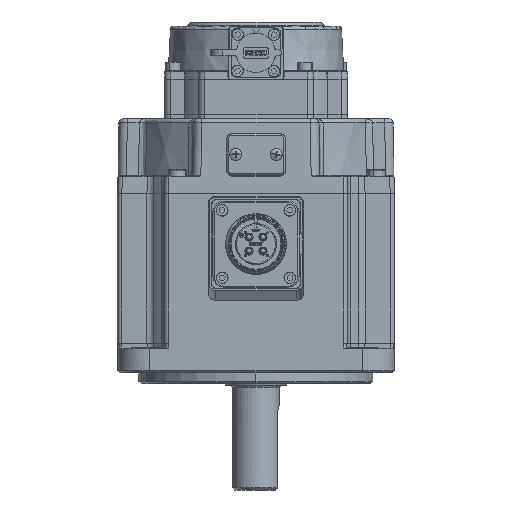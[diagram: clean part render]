
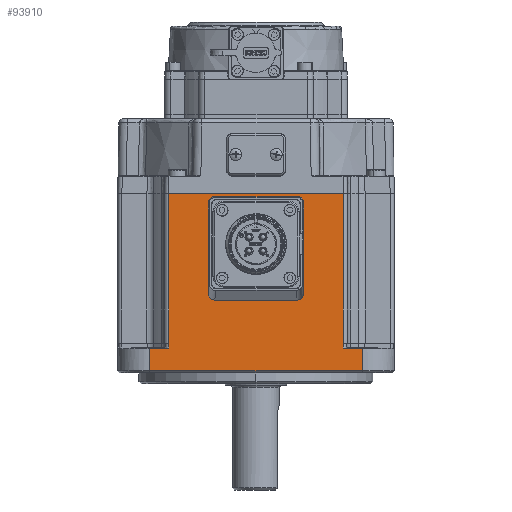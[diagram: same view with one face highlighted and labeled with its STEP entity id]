
A CAD part, left-side view. The second image highlights one B-rep face of the part: STEP entity #93910.
In plain terms, the highlighted planar face has unit normal (-1, 0, 0).
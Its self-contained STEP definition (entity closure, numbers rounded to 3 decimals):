
#820 = VECTOR ( 'NONE', #73513, 1000. ) ;
#1027 = VECTOR ( 'NONE', #92564, 1000. ) ;
#3231 = DIRECTION ( 'NONE',  ( 0., -1., 0.017 ) ) ;
#4784 = VERTEX_POINT ( 'NONE', #71075 ) ;
#5714 = FACE_OUTER_BOUND ( 'NONE', #61725, .T. ) ;
#10622 = ORIENTED_EDGE ( 'NONE', *, *, #57400, .F. ) ;
#12722 = CARTESIAN_POINT ( 'NONE',  ( -65., -43., 33.75 ) ) ;
#13947 = EDGE_CURVE ( 'NONE', #14839, #81600, #21922, .T. ) ;
#14839 = VERTEX_POINT ( 'NONE', #72250 ) ;
#16658 = VERTEX_POINT ( 'NONE', #83012 ) ;
#17712 = CARTESIAN_POINT ( 'NONE',  ( -65., -50., 33.75 ) ) ;
#21922 = LINE ( 'NONE', #105559, #50289 ) ;
#22452 = DIRECTION ( 'NONE',  ( 0., 1., 0. ) ) ;
#26381 = LINE ( 'NONE', #94913, #64093 ) ;
#28724 = ORIENTED_EDGE ( 'NONE', *, *, #31912, .T. ) ;
#29354 = DIRECTION ( 'NONE',  ( 0., -1., 0. ) ) ;
#30460 = LINE ( 'NONE', #54963, #98930 ) ;
#30565 = CARTESIAN_POINT ( 'NONE',  ( -65., 41.035, -36.75 ) ) ;
#31912 = EDGE_CURVE ( 'NONE', #84359, #47743, #43062, .T. ) ;
#32949 = LINE ( 'NONE', #66919, #1027 ) ;
#34262 = ORIENTED_EDGE ( 'NONE', *, *, #108277, .F. ) ;
#36641 = LINE ( 'NONE', #17712, #81966 ) ;
#37444 = ORIENTED_EDGE ( 'NONE', *, *, #100888, .T. ) ;
#39077 = CARTESIAN_POINT ( 'NONE',  ( -65., 50., -49.75 ) ) ;
#40889 = VERTEX_POINT ( 'NONE', #105581 ) ;
#41437 = VERTEX_POINT ( 'NONE', #60774 ) ;
#43062 = LINE ( 'NONE', #68692, #89260 ) ;
#43649 = DIRECTION ( 'NONE',  ( 0., 0., 1. ) ) ;
#44632 = EDGE_CURVE ( 'NONE', #96426, #41437, #36641, .T. ) ;
#45907 = DIRECTION ( 'NONE',  ( 0., 0., 1. ) ) ;
#47743 = VERTEX_POINT ( 'NONE', #72415 ) ;
#50289 = VECTOR ( 'NONE', #45907, 1000. ) ;
#50880 = DIRECTION ( 'NONE',  ( 0., 0., -1. ) ) ;
#53211 = ORIENTED_EDGE ( 'NONE', *, *, #13947, .T. ) ;
#53528 = LINE ( 'NONE', #103167, #60271 ) ;
#54922 = CARTESIAN_POINT ( 'NONE',  ( -65., -50., -49.75 ) ) ;
#54963 = CARTESIAN_POINT ( 'NONE',  ( -65., -50., -49.75 ) ) ;
#55652 = CARTESIAN_POINT ( 'NONE',  ( -65., -41.035, -36.75 ) ) ;
#57400 = EDGE_CURVE ( 'NONE', #4784, #40889, #105854, .T. ) ;
#58754 = LINE ( 'NONE', #100550, #106327 ) ;
#59730 = ORIENTED_EDGE ( 'NONE', *, *, #98777, .T. ) ;
#60271 = VECTOR ( 'NONE', #70266, 1000. ) ;
#60774 = CARTESIAN_POINT ( 'NONE',  ( -65., -50., -39.256 ) ) ;
#61725 = EDGE_LOOP ( 'NONE', ( #108690, #28724, #34262, #37444, #59730, #104813, #73018, #53211, #89364, #10622 ) ) ;
#64093 = VECTOR ( 'NONE', #43649, 1000. ) ;
#65479 = VERTEX_POINT ( 'NONE', #39077 ) ;
#66919 = CARTESIAN_POINT ( 'NONE',  ( -65., -41.707, -39.108 ) ) ;
#68692 = CARTESIAN_POINT ( 'NONE',  ( -65., 41.035, -36.75 ) ) ;
#68997 = DIRECTION ( 'NONE',  ( 0., 0., 1. ) ) ;
#70266 = DIRECTION ( 'NONE',  ( 0., 0., -1. ) ) ;
#71075 = CARTESIAN_POINT ( 'NONE',  ( -65., 41.035, 33.75 ) ) ;
#71269 = CARTESIAN_POINT ( 'NONE',  ( -65., -44.224, -37.631 ) ) ;
#72250 = CARTESIAN_POINT ( 'NONE',  ( -65., -41.035, -39.096 ) ) ;
#72415 = CARTESIAN_POINT ( 'NONE',  ( -65., 41.035, -39.094 ) ) ;
#73018 = ORIENTED_EDGE ( 'NONE', *, *, #104470, .F. ) ;
#73513 = DIRECTION ( 'NONE',  ( 0., -1., 0. ) ) ;
#81600 = VERTEX_POINT ( 'NONE', #55652 ) ;
#81966 = VECTOR ( 'NONE', #68997, 1000. ) ;
#83012 = CARTESIAN_POINT ( 'NONE',  ( -65., 50., -39.247 ) ) ;
#84359 = VERTEX_POINT ( 'NONE', #30565 ) ;
#88256 = PLANE ( 'NONE',  #107478 ) ;
#88490 = EDGE_CURVE ( 'NONE', #81600, #40889, #26381, .T. ) ;
#88542 = LINE ( 'NONE', #71269, #97623 ) ;
#89260 = VECTOR ( 'NONE', #50880, 1000. ) ;
#89364 = ORIENTED_EDGE ( 'NONE', *, *, #88490, .T. ) ;
#89899 = DIRECTION ( 'NONE',  ( 1., 0., 0. ) ) ;
#92564 = DIRECTION ( 'NONE',  ( 0., -1., -0.018 ) ) ;
#92737 = DIRECTION ( 'NONE',  ( 0., 0., -1. ) ) ;
#93910 = ADVANCED_FACE ( 'NONE', ( #5714 ), #88256, .F. ) ;
#94913 = CARTESIAN_POINT ( 'NONE',  ( -65., -41.035, 33.75 ) ) ;
#96426 = VERTEX_POINT ( 'NONE', #54922 ) ;
#97623 = VECTOR ( 'NONE', #3231, 1000. ) ;
#98777 = EDGE_CURVE ( 'NONE', #65479, #96426, #30460, .T. ) ;
#98930 = VECTOR ( 'NONE', #29354, 1000. ) ;
#100550 = CARTESIAN_POINT ( 'NONE',  ( -65., 50., 33.75 ) ) ;
#100888 = EDGE_CURVE ( 'NONE', #16658, #65479, #58754, .T. ) ;
#103167 = CARTESIAN_POINT ( 'NONE',  ( -65., 41.035, 33.75 ) ) ;
#103318 = EDGE_CURVE ( 'NONE', #4784, #84359, #53528, .T. ) ;
#104470 = EDGE_CURVE ( 'NONE', #14839, #41437, #32949, .T. ) ;
#104813 = ORIENTED_EDGE ( 'NONE', *, *, #44632, .T. ) ;
#105543 = CARTESIAN_POINT ( 'NONE',  ( -65., -43., 33.75 ) ) ;
#105559 = CARTESIAN_POINT ( 'NONE',  ( -65., -41.035, 33.75 ) ) ;
#105581 = CARTESIAN_POINT ( 'NONE',  ( -65., -41.035, 33.75 ) ) ;
#105854 = LINE ( 'NONE', #12722, #820 ) ;
#106327 = VECTOR ( 'NONE', #92737, 1000. ) ;
#107478 = AXIS2_PLACEMENT_3D ( 'NONE', #105543, #89899, #22452 ) ;
#108277 = EDGE_CURVE ( 'NONE', #16658, #47743, #88542, .T. ) ;
#108690 = ORIENTED_EDGE ( 'NONE', *, *, #103318, .T. ) ;
